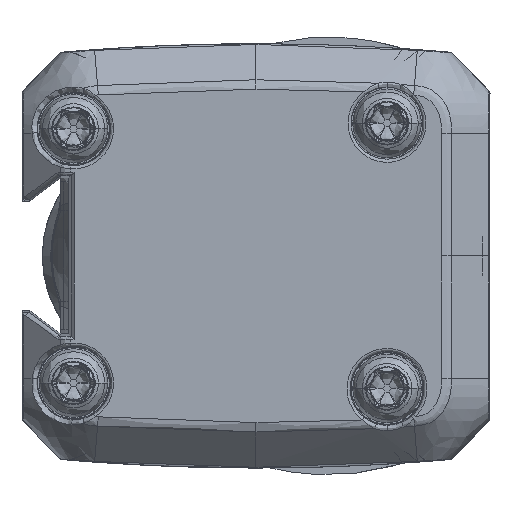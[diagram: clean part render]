
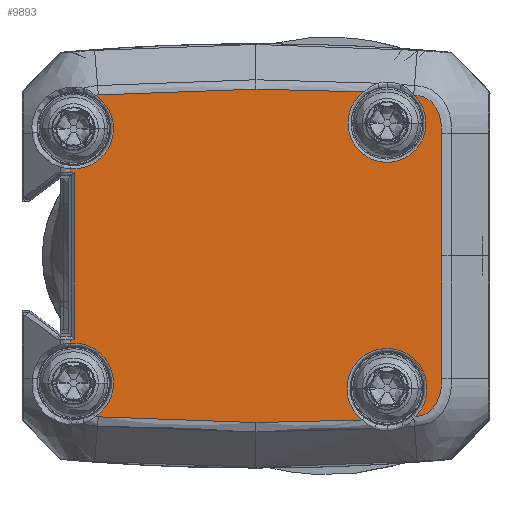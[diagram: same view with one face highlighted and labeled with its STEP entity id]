
A CAD part, left-side view. The second image highlights one B-rep face of the part: STEP entity #9893.
In plain terms, the highlighted planar face has unit normal (-1, 0, 0) as drawn and (0, 0, 1) by its records, which use the part's own axes.
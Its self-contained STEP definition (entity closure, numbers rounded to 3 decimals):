
#5138=CARTESIAN_POINT('',(-10.302,9.807,254.927));
#5154=CARTESIAN_POINT('',(7.86,-12.392,254.927));
#5155=CARTESIAN_POINT('',(8.026,-12.393,254.927));
#5156=CARTESIAN_POINT('',(8.359,-12.386,254.927));
#5157=CARTESIAN_POINT('',(8.856,-12.313,254.927));
#5158=CARTESIAN_POINT('',(9.336,-12.147,254.927));
#5159=CARTESIAN_POINT('',(9.737,-11.891,254.927));
#5160=CARTESIAN_POINT('',(10.043,-11.567,254.927));
#5161=CARTESIAN_POINT('',(10.238,-11.201,254.927));
#5162=CARTESIAN_POINT('',(10.3,-10.867,254.927));
#5163=CARTESIAN_POINT('',(10.314,-10.67,254.927));
#5164=CARTESIAN_POINT('',(10.318,-10.612,254.927));
#5166=DIRECTION('',(1.,0.,0.));
#5167=VECTOR('',#5166,7.86);
#5168=CARTESIAN_POINT('',(0.,-12.392,
254.927));
#5169=LINE('',#5168,#5167);
#5170=CARTESIAN_POINT('',(-10.311,-10.714,
254.927));
#5171=CARTESIAN_POINT('',(-10.309,-10.739,
254.927));
#5172=CARTESIAN_POINT('',(-10.293,-10.901,
254.927));
#5173=CARTESIAN_POINT('',(-10.238,-11.201,
254.927));
#5174=CARTESIAN_POINT('',(-10.043,-11.567,
254.927));
#5175=CARTESIAN_POINT('',(-9.737,-11.891,
254.927));
#5176=CARTESIAN_POINT('',(-9.336,-12.147,
254.927));
#5177=CARTESIAN_POINT('',(-8.856,-12.313,
254.927));
#5178=CARTESIAN_POINT('',(-8.359,-12.386,
254.927));
#5179=CARTESIAN_POINT('',(-8.026,-12.393,
254.927));
#5180=CARTESIAN_POINT('',(-7.86,-12.392,
254.927));
#5182=CARTESIAN_POINT('',(-10.685,-0.495,
254.927));
#5183=CARTESIAN_POINT('',(-10.685,-2.768,
254.927));
#5184=CARTESIAN_POINT('',(-10.629,-5.041,
254.927));
#5185=CARTESIAN_POINT('',(-10.518,-7.31,
254.927));
#5187=CARTESIAN_POINT('',(-10.318,9.614,254.927));
#5188=CARTESIAN_POINT('',(-10.563,6.251,254.927));
#5189=CARTESIAN_POINT('',(-10.685,2.878,254.927));
#5190=CARTESIAN_POINT('',(-10.685,-0.495,
254.927));
#5192=CARTESIAN_POINT('',(-10.302,9.807,254.927));
#5193=CARTESIAN_POINT('',(-10.303,9.804,254.927));
#5194=CARTESIAN_POINT('',(-10.31,9.739,254.927));
#5195=CARTESIAN_POINT('',(-10.314,9.675,254.927));
#5196=CARTESIAN_POINT('',(-10.318,9.614,254.927));
#5198=DIRECTION('',(1.,0.,0.));
#5199=VECTOR('',#5198,0.245);
#5200=CARTESIAN_POINT('',(-5.591,11.401,254.927));
#5201=LINE('',#5200,#5199);
#5202=DIRECTION('',(0.,-1.,0.));
#5203=VECTOR('',#5202,0.242);
#5204=CARTESIAN_POINT('',(-5.346,11.401,254.927));
#5205=LINE('',#5204,#5203);
#5206=DIRECTION('',(1.,0.,0.));
#5207=VECTOR('',#5206,10.692);
#5208=CARTESIAN_POINT('',(-5.346,11.159,254.927));
#5209=LINE('',#5208,#5207);
#5210=DIRECTION('',(0.,-1.,0.));
#5211=VECTOR('',#5210,0.242);
#5212=CARTESIAN_POINT('',(5.346,11.401,254.927));
#5213=LINE('',#5212,#5211);
#5214=DIRECTION('',(1.,0.,0.));
#5215=VECTOR('',#5214,0.245);
#5216=CARTESIAN_POINT('',(5.346,11.401,254.927));
#5217=LINE('',#5216,#5215);
#5218=CARTESIAN_POINT('',(10.318,9.614,254.927));
#5219=CARTESIAN_POINT('',(10.314,9.675,254.927));
#5220=CARTESIAN_POINT('',(10.31,9.739,254.927));
#5221=CARTESIAN_POINT('',(10.303,9.804,254.927));
#5222=CARTESIAN_POINT('',(10.302,9.807,254.927));
#5224=CARTESIAN_POINT('',(10.685,-0.495,
254.927));
#5225=CARTESIAN_POINT('',(10.685,2.878,254.927));
#5226=CARTESIAN_POINT('',(10.563,6.251,254.927));
#5227=CARTESIAN_POINT('',(10.318,9.614,254.927));
#5229=CARTESIAN_POINT('',(10.513,-7.413,254.927));
#5230=CARTESIAN_POINT('',(10.628,-5.109,254.927));
#5231=CARTESIAN_POINT('',(10.685,-2.802,254.927));
#5232=CARTESIAN_POINT('',(10.685,-0.495,
254.927));
#5239=CARTESIAN_POINT('',(8.5,-8.895,254.927));
#5240=DIRECTION('',(0.,0.,-1.));
#5241=DIRECTION('',(0.727,-0.687,0.));
#5242=AXIS2_PLACEMENT_3D('',#5239,#5240,#5241);
#5278=CARTESIAN_POINT('',(10.513,-7.413,254.927));
#5292=CARTESIAN_POINT('',(10.685,-0.495,
254.927));
#5333=CARTESIAN_POINT('',(10.302,9.807,254.927));
#5335=CARTESIAN_POINT('',(10.318,9.614,254.927));
#5351=CARTESIAN_POINT('',(8.15,11.204,254.927));
#5352=DIRECTION('',(0.,0.,-1.));
#5353=DIRECTION('',(0.839,-0.545,0.));
#5354=AXIS2_PLACEMENT_3D('',#5351,#5352,#5353);
#5377=CARTESIAN_POINT('',(-5.591,11.401,254.927));
#5385=CARTESIAN_POINT('',(-5.346,11.401,254.927));
#5387=CARTESIAN_POINT('',(5.591,11.401,254.927));
#5406=CARTESIAN_POINT('',(5.346,11.401,254.927));
#5422=CARTESIAN_POINT('',(-8.15,11.204,254.927));
#5423=DIRECTION('',(0.,0.,-1.));
#5424=DIRECTION('',(0.997,0.076,0.));
#5425=AXIS2_PLACEMENT_3D('',#5422,#5423,#5424);
#6032=CARTESIAN_POINT('',(-10.318,9.614,254.927));
#6043=CARTESIAN_POINT('',(-10.685,-0.495,
254.927));
#6070=CARTESIAN_POINT('',(-10.518,-7.31,
254.927));
#6782=CARTESIAN_POINT('',(10.318,-10.612,254.927));
#6791=CARTESIAN_POINT('',(7.86,-12.392,254.927));
#7555=CARTESIAN_POINT('',(-7.86,-12.392,
254.927));
#7562=DIRECTION('',(-1.,0.,0.));
#7563=VECTOR('',#7562,7.86);
#7564=CARTESIAN_POINT('',(0.,-12.392,
254.927));
#7565=LINE('',#7564,#7563);
#7604=CARTESIAN_POINT('',(-8.5,-8.895,
254.927));
#7605=DIRECTION('',(0.,0.,-1.));
#7606=DIRECTION('',(-0.786,0.618,0.));
#7607=AXIS2_PLACEMENT_3D('',#7604,#7605,#7606);
#7939=VERTEX_POINT('',#5292);
#7941=VERTEX_POINT('',#5335);
#7942=VERTEX_POINT('',#6791);
#7943=CARTESIAN_POINT('',(0.,-12.392,
254.927));
#7944=VERTEX_POINT('',#7943);
#7999=VERTEX_POINT('',#6043);
#8001=VERTEX_POINT('',#6032);
#8002=VERTEX_POINT('',#7555);
#8116=VERTEX_POINT('',#5278);
#8125=VERTEX_POINT('',#6782);
#8149=VERTEX_POINT('',#5170);
#8162=VERTEX_POINT('',#5138);
#8172=VERTEX_POINT('',#5377);
#8180=VERTEX_POINT('',#5387);
#8189=VERTEX_POINT('',#5333);
#8200=VERTEX_POINT('',#6070);
#8240=VERTEX_POINT('',#5385);
#8241=CARTESIAN_POINT('',(-5.346,11.159,254.927));
#8242=VERTEX_POINT('',#8241);
#8245=CARTESIAN_POINT('',(5.346,11.159,254.927));
#8246=VERTEX_POINT('',#8245);
#8257=VERTEX_POINT('',#5406);
#9849=CARTESIAN_POINT('',(-14.142,14.804,254.927));
#9850=DIRECTION('',(0.,0.,1.));
#9851=DIRECTION('',(1.,0.,0.));
#9852=AXIS2_PLACEMENT_3D('',#9849,#9850,#9851);
#9853=PLANE('',#9852);
#9855=ORIENTED_EDGE('',*,*,#9854,.F.);
#9857=ORIENTED_EDGE('',*,*,#9856,.F.);
#9859=ORIENTED_EDGE('',*,*,#9858,.F.);
#9861=ORIENTED_EDGE('',*,*,#9860,.T.);
#9863=ORIENTED_EDGE('',*,*,#9862,.F.);
#9865=ORIENTED_EDGE('',*,*,#9864,.F.);
#9867=ORIENTED_EDGE('',*,*,#9866,.F.);
#9869=ORIENTED_EDGE('',*,*,#9868,.F.);
#9870=ORIENTED_EDGE('',*,*,#9841,.F.);
#9872=ORIENTED_EDGE('',*,*,#9871,.F.);
#9874=ORIENTED_EDGE('',*,*,#9873,.T.);
#9876=ORIENTED_EDGE('',*,*,#9875,.T.);
#9878=ORIENTED_EDGE('',*,*,#9877,.T.);
#9880=ORIENTED_EDGE('',*,*,#9879,.F.);
#9882=ORIENTED_EDGE('',*,*,#9881,.T.);
#9884=ORIENTED_EDGE('',*,*,#9883,.F.);
#9886=ORIENTED_EDGE('',*,*,#9885,.F.);
#9888=ORIENTED_EDGE('',*,*,#9887,.F.);
#9890=ORIENTED_EDGE('',*,*,#9889,.F.);
#9891=EDGE_LOOP('',(#9855,#9857,#9859,#9861,#9863,#9865,#9867,#9869,#9870,#9872,
#9874,#9876,#9878,#9880,#9882,#9884,#9886,#9888,#9890));
#9892=FACE_OUTER_BOUND('',#9891,.F.);
#9893=ADVANCED_FACE('',(#9892),#9853,.T.);
#5165=B_SPLINE_CURVE_WITH_KNOTS('',3,(#5154,#5155,#5156,#5157,#5158,#5159,#5160,
#5161,#5162,#5163,#5164),.UNSPECIFIED.,.F.,.F.,(4,1,1,1,1,1,1,1,4),(0.,
0.149,0.299,0.449,0.599,
0.716,0.833,0.95,1.),.UNSPECIFIED.);
#5181=B_SPLINE_CURVE_WITH_KNOTS('',3,(#5170,#5171,#5172,#5173,#5174,#5175,#5176,
#5177,#5178,#5179,#5180),.UNSPECIFIED.,.F.,.F.,(4,1,1,1,1,1,1,1,4),(0.,
0.021,0.142,0.262,0.383,
0.537,0.692,0.847,1.),.UNSPECIFIED.);
#5186=B_SPLINE_CURVE_WITH_KNOTS('',3,(#5182,#5183,#5184,#5185),.UNSPECIFIED.,
.F.,.F.,(4,4),(0.,1.),.UNSPECIFIED.);
#5191=B_SPLINE_CURVE_WITH_KNOTS('',3,(#5187,#5188,#5189,#5190),.UNSPECIFIED.,
.F.,.F.,(4,4),(0.,1.),.UNSPECIFIED.);
#5197=B_SPLINE_CURVE_WITH_KNOTS('',3,(#5192,#5193,#5194,#5195,#5196),
.UNSPECIFIED.,.F.,.F.,(4,1,4),(0.,0.053,1.),.UNSPECIFIED.);
#5223=B_SPLINE_CURVE_WITH_KNOTS('',3,(#5218,#5219,#5220,#5221,#5222),
.UNSPECIFIED.,.F.,.F.,(4,1,4),(0.,0.947,1.),.UNSPECIFIED.);
#5228=B_SPLINE_CURVE_WITH_KNOTS('',3,(#5224,#5225,#5226,#5227),.UNSPECIFIED.,
.F.,.F.,(4,4),(0.,1.),.UNSPECIFIED.);
#5233=B_SPLINE_CURVE_WITH_KNOTS('',3,(#5229,#5230,#5231,#5232),.UNSPECIFIED.,
.F.,.F.,(4,4),(0.,1.),.UNSPECIFIED.);
#5243=CIRCLE('',#5242,2.5);
#5355=CIRCLE('',#5354,2.566);
#5426=CIRCLE('',#5425,2.566);
#7608=CIRCLE('',#7607,2.566);
#9841=EDGE_CURVE('',#8162,#8001,#5197,.T.);
#9854=EDGE_CURVE('',#8125,#8116,#5243,.T.);
#9856=EDGE_CURVE('',#7942,#8125,#5165,.T.);
#9858=EDGE_CURVE('',#7944,#7942,#5169,.T.);
#9860=EDGE_CURVE('',#7944,#8002,#7565,.T.);
#9862=EDGE_CURVE('',#8149,#8002,#5181,.T.);
#9864=EDGE_CURVE('',#8200,#8149,#7608,.T.);
#9866=EDGE_CURVE('',#7999,#8200,#5186,.T.);
#9868=EDGE_CURVE('',#8001,#7999,#5191,.T.);
#9871=EDGE_CURVE('',#8172,#8162,#5426,.T.);
#9873=EDGE_CURVE('',#8172,#8240,#5201,.T.);
#9875=EDGE_CURVE('',#8240,#8242,#5205,.T.);
#9877=EDGE_CURVE('',#8242,#8246,#5209,.T.);
#9879=EDGE_CURVE('',#8257,#8246,#5213,.T.);
#9881=EDGE_CURVE('',#8257,#8180,#5217,.T.);
#9883=EDGE_CURVE('',#8189,#8180,#5355,.T.);
#9885=EDGE_CURVE('',#7941,#8189,#5223,.T.);
#9887=EDGE_CURVE('',#7939,#7941,#5228,.T.);
#9889=EDGE_CURVE('',#8116,#7939,#5233,.T.);
